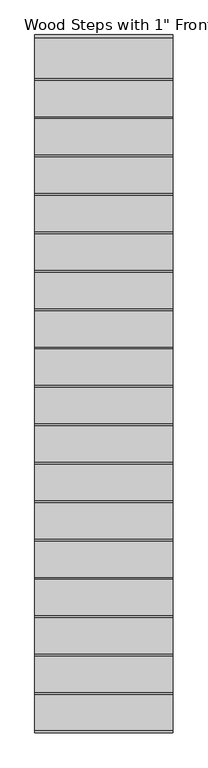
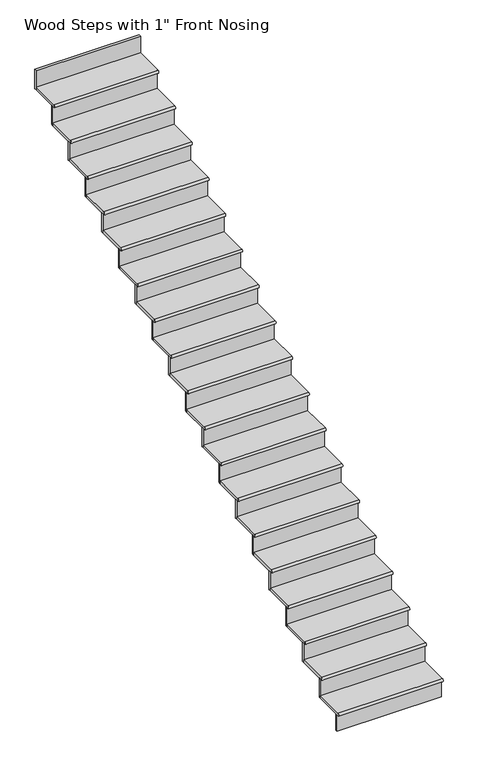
"""IFC4 building model written with IfcOpenShell, lengths in millimetres: stair flight geometry."""

from ifc_helpers import new_model, si_unit, point, frame, frame_2d, origin, place, context, project, spatial, polyline, circle_curve, trimmed, segment, composite_curve, outline, extrude, source, transform, mapped, element, save


def stair_flight_560492a1(model_context):
    return source(origin(), model_context, "Body", "SweptSolid", [
        extrude(outline(composite_curve([segment(polyline([(-5446.3539462, 1415.7157895), (-5179.6539462, 1415.7157895), (-5179.6539462, 1390.3157895), (-5446.3539462, 1390.3157895)]), True, "CONTINUOUS"), segment(trimmed(circle_curve(frame_2d((-5446.3539462, 1403.0157895)), 12.7), [point((-5446.3539462, 1390.3157895))], [point((-5446.3539462, 1415.7157895))], False, "CARTESIAN"), True, "CONTINUOUS")], self_intersect=False)), frame((3548.5370514, 0.0, 0.0), z_axis=(1.0, 0.0, 0.0), x_axis=(0.0, 1.0, 0.0)), (0.0, 0.0, 1.0), 914.4),
        extrude(outline(polyline([(4462.9370514, -5414.6039462), (4462.9370514, -5433.6539462), (3548.5370514, -5433.6539462), (3548.5370514, -5414.6039462), (4462.9370514, -5414.6039462)])), frame((0.0, 0.0, 1238.25), z_axis=(0.0, 0.0, 1.0), x_axis=(1.0, 0.0, 0.0)), (0.0, 0.0, 1.0), 152.0657895),
        extrude(outline(polyline([(4462.9370514, -5160.6039462), (4462.9370514, -5179.6539462), (3548.5370514, -5179.6539462), (3548.5370514, -5160.6039462), (4462.9370514, -5160.6039462)])), frame((0.0, 0.0, 1390.3157895), z_axis=(0.0, 0.0, 1.0), x_axis=(1.0, 0.0, 0.0)), (0.0, 0.0, 1.0), 177.4657895),
        extrude(outline(composite_curve([segment(polyline([(-5192.3539462, 1593.1815789), (-4925.6539462, 1593.1815789), (-4925.6539462, 1567.7815789), (-5192.3539462, 1567.7815789)]), True, "CONTINUOUS"), segment(trimmed(circle_curve(frame_2d((-5192.3539462, 1580.4815789)), 12.7), [point((-5192.3539462, 1567.7815789))], [point((-5192.3539462, 1593.1815789))], False, "CARTESIAN"), True, "CONTINUOUS")], self_intersect=False)), frame((3548.5370514, 0.0, 0.0), z_axis=(1.0, 0.0, 0.0), x_axis=(0.0, 1.0, 0.0)), (0.0, 0.0, 1.0), 914.4),
        extrude(outline(polyline([(4462.9370514, -4906.6039462), (4462.9370514, -4925.6539462), (3548.5370514, -4925.6539462), (3548.5370514, -4906.6039462), (4462.9370514, -4906.6039462)])), frame((0.0, 0.0, 1567.7815789), z_axis=(0.0, 0.0, 1.0), x_axis=(1.0, 0.0, 0.0)), (0.0, 0.0, 1.0), 177.4657895),
        extrude(outline(composite_curve([segment(polyline([(-4938.3539462, 1770.6473684), (-4671.6539462, 1770.6473684), (-4671.6539462, 1745.2473684), (-4938.3539462, 1745.2473684)]), True, "CONTINUOUS"), segment(trimmed(circle_curve(frame_2d((-4938.3539462, 1757.9473684)), 12.7), [point((-4938.3539462, 1745.2473684))], [point((-4938.3539462, 1770.6473684))], False, "CARTESIAN"), True, "CONTINUOUS")], self_intersect=False)), frame((3548.5370514, 0.0, 0.0), z_axis=(1.0, 0.0, 0.0), x_axis=(0.0, 1.0, 0.0)), (0.0, 0.0, 1.0), 914.4),
        extrude(outline(polyline([(4462.9370514, -4652.6039462), (4462.9370514, -4671.6539462), (3548.5370514, -4671.6539462), (3548.5370514, -4652.6039462), (4462.9370514, -4652.6039462)])), frame((0.0, 0.0, 1745.2473684), z_axis=(0.0, 0.0, 1.0), x_axis=(1.0, 0.0, 0.0)), (0.0, 0.0, 1.0), 177.4657895),
        extrude(outline(composite_curve([segment(polyline([(-4684.3539462, 1948.1131579), (-4417.6539462, 1948.1131579), (-4417.6539462, 1922.7131579), (-4684.3539462, 1922.7131579)]), True, "CONTINUOUS"), segment(trimmed(circle_curve(frame_2d((-4684.3539462, 1935.4131579)), 12.7), [point((-4684.3539462, 1922.7131579))], [point((-4684.3539462, 1948.1131579))], False, "CARTESIAN"), True, "CONTINUOUS")], self_intersect=False)), frame((3548.5370514, 0.0, 0.0), z_axis=(1.0, 0.0, 0.0), x_axis=(0.0, 1.0, 0.0)), (0.0, 0.0, 1.0), 914.4),
        extrude(outline(polyline([(4462.9370514, -4398.6039462), (4462.9370514, -4417.6539462), (3548.5370514, -4417.6539462), (3548.5370514, -4398.6039462), (4462.9370514, -4398.6039462)])), frame((0.0, 0.0, 1922.7131579), z_axis=(0.0, 0.0, 1.0), x_axis=(1.0, 0.0, 0.0)), (0.0, 0.0, 1.0), 177.4657895),
        extrude(outline(composite_curve([segment(polyline([(-4430.3539462, 2125.5789474), (-4163.6539462, 2125.5789474), (-4163.6539462, 2100.1789474), (-4430.3539462, 2100.1789474)]), True, "CONTINUOUS"), segment(trimmed(circle_curve(frame_2d((-4430.3539462, 2112.8789474)), 12.7), [point((-4430.3539462, 2100.1789474))], [point((-4430.3539462, 2125.5789474))], False, "CARTESIAN"), True, "CONTINUOUS")], self_intersect=False)), frame((3548.5370514, 0.0, 0.0), z_axis=(1.0, 0.0, 0.0), x_axis=(0.0, 1.0, 0.0)), (0.0, 0.0, 1.0), 914.4),
        extrude(outline(polyline([(4462.9370514, -4144.6039462), (4462.9370514, -4163.6539462), (3548.5370514, -4163.6539462), (3548.5370514, -4144.6039462), (4462.9370514, -4144.6039462)])), frame((0.0, 0.0, 2100.1789474), z_axis=(0.0, 0.0, 1.0), x_axis=(1.0, 0.0, 0.0)), (0.0, 0.0, 1.0), 177.4657895),
        extrude(outline(composite_curve([segment(polyline([(-4176.3539462, 2303.0447368), (-3909.6539462, 2303.0447368), (-3909.6539462, 2277.6447368), (-4176.3539462, 2277.6447368)]), True, "CONTINUOUS"), segment(trimmed(circle_curve(frame_2d((-4176.3539462, 2290.3447368)), 12.7), [point((-4176.3539462, 2277.6447368))], [point((-4176.3539462, 2303.0447368))], False, "CARTESIAN"), True, "CONTINUOUS")], self_intersect=False)), frame((3548.5370514, 0.0, 0.0), z_axis=(1.0, 0.0, 0.0), x_axis=(0.0, 1.0, 0.0)), (0.0, 0.0, 1.0), 914.4),
        extrude(outline(polyline([(4462.9370514, -3890.6039462), (4462.9370514, -3909.6539462), (3548.5370514, -3909.6539462), (3548.5370514, -3890.6039462), (4462.9370514, -3890.6039462)])), frame((0.0, 0.0, 2277.6447368), z_axis=(0.0, 0.0, 1.0), x_axis=(1.0, 0.0, 0.0)), (0.0, 0.0, 1.0), 177.4657895),
        extrude(outline(composite_curve([segment(polyline([(-3922.3539462, 2480.5105263), (-3655.6539462, 2480.5105263), (-3655.6539462, 2455.1105263), (-3922.3539462, 2455.1105263)]), True, "CONTINUOUS"), segment(trimmed(circle_curve(frame_2d((-3922.3539462, 2467.8105263)), 12.7), [point((-3922.3539462, 2455.1105263))], [point((-3922.3539462, 2480.5105263))], False, "CARTESIAN"), True, "CONTINUOUS")], self_intersect=False)), frame((3548.5370514, 0.0, 0.0), z_axis=(1.0, 0.0, 0.0), x_axis=(0.0, 1.0, 0.0)), (0.0, 0.0, 1.0), 914.4),
        extrude(outline(polyline([(4462.9370514, -3636.6039462), (4462.9370514, -3655.6539462), (3548.5370514, -3655.6539462), (3548.5370514, -3636.6039462), (4462.9370514, -3636.6039462)])), frame((0.0, 0.0, 2455.1105263), z_axis=(0.0, 0.0, 1.0), x_axis=(1.0, 0.0, 0.0)), (0.0, 0.0, 1.0), 177.4657895),
        extrude(outline(composite_curve([segment(polyline([(-3668.3539462, 2657.9763158), (-3401.6539462, 2657.9763158), (-3401.6539462, 2632.5763158), (-3668.3539462, 2632.5763158)]), True, "CONTINUOUS"), segment(trimmed(circle_curve(frame_2d((-3668.3539462, 2645.2763158)), 12.7), [point((-3668.3539462, 2632.5763158))], [point((-3668.3539462, 2657.9763158))], False, "CARTESIAN"), True, "CONTINUOUS")], self_intersect=False)), frame((3548.5370514, 0.0, 0.0), z_axis=(1.0, 0.0, 0.0), x_axis=(0.0, 1.0, 0.0)), (0.0, 0.0, 1.0), 914.4),
        extrude(outline(polyline([(4462.9370514, -3382.6039462), (4462.9370514, -3401.6539462), (3548.5370514, -3401.6539462), (3548.5370514, -3382.6039462), (4462.9370514, -3382.6039462)])), frame((0.0, 0.0, 2632.5763158), z_axis=(0.0, 0.0, 1.0), x_axis=(1.0, 0.0, 0.0)), (0.0, 0.0, 1.0), 177.4657895),
        extrude(outline(composite_curve([segment(polyline([(-3414.3539462, 2835.4421053), (-3147.6539462, 2835.4421053), (-3147.6539462, 2810.0421053), (-3414.3539462, 2810.0421053)]), True, "CONTINUOUS"), segment(trimmed(circle_curve(frame_2d((-3414.3539462, 2822.7421053)), 12.7), [point((-3414.3539462, 2810.0421053))], [point((-3414.3539462, 2835.4421053))], False, "CARTESIAN"), True, "CONTINUOUS")], self_intersect=False)), frame((3548.5370514, 0.0, 0.0), z_axis=(1.0, 0.0, 0.0), x_axis=(0.0, 1.0, 0.0)), (0.0, 0.0, 1.0), 914.4),
        extrude(outline(polyline([(4462.9370514, -3128.6039462), (4462.9370514, -3147.6539462), (3548.5370514, -3147.6539462), (3548.5370514, -3128.6039462), (4462.9370514, -3128.6039462)])), frame((0.0, 0.0, 2810.0421053), z_axis=(0.0, 0.0, 1.0), x_axis=(1.0, 0.0, 0.0)), (0.0, 0.0, 1.0), 177.4657895),
        extrude(outline(composite_curve([segment(polyline([(-3160.3539462, 3012.9078947), (-2893.6539462, 3012.9078947), (-2893.6539462, 2987.5078947), (-3160.3539462, 2987.5078947)]), True, "CONTINUOUS"), segment(trimmed(circle_curve(frame_2d((-3160.3539462, 3000.2078947)), 12.7), [point((-3160.3539462, 2987.5078947))], [point((-3160.3539462, 3012.9078947))], False, "CARTESIAN"), True, "CONTINUOUS")], self_intersect=False)), frame((3548.5370514, 0.0, 0.0), z_axis=(1.0, 0.0, 0.0), x_axis=(0.0, 1.0, 0.0)), (0.0, 0.0, 1.0), 914.4),
        extrude(outline(polyline([(4462.9370514, -2874.6039462), (4462.9370514, -2893.6539462), (3548.5370514, -2893.6539462), (3548.5370514, -2874.6039462), (4462.9370514, -2874.6039462)])), frame((0.0, 0.0, 2987.5078947), z_axis=(0.0, 0.0, 1.0), x_axis=(1.0, 0.0, 0.0)), (0.0, 0.0, 1.0), 177.4657895),
        extrude(outline(composite_curve([segment(polyline([(-2906.3539462, 3190.3736842), (-2639.6539462, 3190.3736842), (-2639.6539462, 3164.9736842), (-2906.3539462, 3164.9736842)]), True, "CONTINUOUS"), segment(trimmed(circle_curve(frame_2d((-2906.3539462, 3177.6736842)), 12.7), [point((-2906.3539462, 3164.9736842))], [point((-2906.3539462, 3190.3736842))], False, "CARTESIAN"), True, "CONTINUOUS")], self_intersect=False)), frame((3548.5370514, 0.0, 0.0), z_axis=(1.0, 0.0, 0.0), x_axis=(0.0, 1.0, 0.0)), (0.0, 0.0, 1.0), 914.4),
        extrude(outline(polyline([(4462.9370514, -2620.6039462), (4462.9370514, -2639.6539462), (3548.5370514, -2639.6539462), (3548.5370514, -2620.6039462), (4462.9370514, -2620.6039462)])), frame((0.0, 0.0, 3164.9736842), z_axis=(0.0, 0.0, 1.0), x_axis=(1.0, 0.0, 0.0)), (0.0, 0.0, 1.0), 177.4657895),
        extrude(outline(composite_curve([segment(polyline([(-2652.3539462, 3367.8394737), (-2385.6539462, 3367.8394737), (-2385.6539462, 3342.4394737), (-2652.3539462, 3342.4394737)]), True, "CONTINUOUS"), segment(trimmed(circle_curve(frame_2d((-2652.3539462, 3355.1394737)), 12.7), [point((-2652.3539462, 3342.4394737))], [point((-2652.3539462, 3367.8394737))], False, "CARTESIAN"), True, "CONTINUOUS")], self_intersect=False)), frame((3548.5370514, 0.0, 0.0), z_axis=(1.0, 0.0, 0.0), x_axis=(0.0, 1.0, 0.0)), (0.0, 0.0, 1.0), 914.4),
        extrude(outline(polyline([(4462.9370514, -2366.6039462), (4462.9370514, -2385.6539462), (3548.5370514, -2385.6539462), (3548.5370514, -2366.6039462), (4462.9370514, -2366.6039462)])), frame((0.0, 0.0, 3342.4394737), z_axis=(0.0, 0.0, 1.0), x_axis=(1.0, 0.0, 0.0)), (0.0, 0.0, 1.0), 177.4657895),
        extrude(outline(composite_curve([segment(polyline([(-2398.3539462, 3545.3052632), (-2131.6539462, 3545.3052632), (-2131.6539462, 3519.9052632), (-2398.3539462, 3519.9052632)]), True, "CONTINUOUS"), segment(trimmed(circle_curve(frame_2d((-2398.3539462, 3532.6052632)), 12.7), [point((-2398.3539462, 3519.9052632))], [point((-2398.3539462, 3545.3052632))], False, "CARTESIAN"), True, "CONTINUOUS")], self_intersect=False)), frame((3548.5370514, 0.0, 0.0), z_axis=(1.0, 0.0, 0.0), x_axis=(0.0, 1.0, 0.0)), (0.0, 0.0, 1.0), 914.4),
        extrude(outline(polyline([(4462.9370514, -2112.6039462), (4462.9370514, -2131.6539462), (3548.5370514, -2131.6539462), (3548.5370514, -2112.6039462), (4462.9370514, -2112.6039462)])), frame((0.0, 0.0, 3519.9052632), z_axis=(0.0, 0.0, 1.0), x_axis=(1.0, 0.0, 0.0)), (0.0, 0.0, 1.0), 177.4657895),
        extrude(outline(composite_curve([segment(polyline([(-2144.3539462, 3722.7710526), (-1877.6539462, 3722.7710526), (-1877.6539462, 3697.3710526), (-2144.3539462, 3697.3710526)]), True, "CONTINUOUS"), segment(trimmed(circle_curve(frame_2d((-2144.3539462, 3710.0710526)), 12.7), [point((-2144.3539462, 3697.3710526))], [point((-2144.3539462, 3722.7710526))], False, "CARTESIAN"), True, "CONTINUOUS")], self_intersect=False)), frame((3548.5370514, 0.0, 0.0), z_axis=(1.0, 0.0, 0.0), x_axis=(0.0, 1.0, 0.0)), (0.0, 0.0, 1.0), 914.4),
        extrude(outline(polyline([(4462.9370514, -1858.6039462), (4462.9370514, -1877.6539462), (3548.5370514, -1877.6539462), (3548.5370514, -1858.6039462), (4462.9370514, -1858.6039462)])), frame((0.0, 0.0, 3697.3710526), z_axis=(0.0, 0.0, 1.0), x_axis=(1.0, 0.0, 0.0)), (0.0, 0.0, 1.0), 177.4657895),
        extrude(outline(composite_curve([segment(polyline([(-1890.3539462, 3900.2368421), (-1623.6539462, 3900.2368421), (-1623.6539462, 3874.8368421), (-1890.3539462, 3874.8368421)]), True, "CONTINUOUS"), segment(trimmed(circle_curve(frame_2d((-1890.3539462, 3887.5368421)), 12.7), [point((-1890.3539462, 3874.8368421))], [point((-1890.3539462, 3900.2368421))], False, "CARTESIAN"), True, "CONTINUOUS")], self_intersect=False)), frame((3548.5370514, 0.0, 0.0), z_axis=(1.0, 0.0, 0.0), x_axis=(0.0, 1.0, 0.0)), (0.0, 0.0, 1.0), 914.4),
        extrude(outline(polyline([(4462.9370514, -1604.6039462), (4462.9370514, -1623.6539462), (3548.5370514, -1623.6539462), (3548.5370514, -1604.6039462), (4462.9370514, -1604.6039462)])), frame((0.0, 0.0, 3874.8368421), z_axis=(0.0, 0.0, 1.0), x_axis=(1.0, 0.0, 0.0)), (0.0, 0.0, 1.0), 177.4657895),
        extrude(outline(composite_curve([segment(polyline([(-1636.3539462, 4077.7026316), (-1369.6539462, 4077.7026316), (-1369.6539462, 4052.3026316), (-1636.3539462, 4052.3026316)]), True, "CONTINUOUS"), segment(trimmed(circle_curve(frame_2d((-1636.3539462, 4065.0026316)), 12.7), [point((-1636.3539462, 4052.3026316))], [point((-1636.3539462, 4077.7026316))], False, "CARTESIAN"), True, "CONTINUOUS")], self_intersect=False)), frame((3548.5370514, 0.0, 0.0), z_axis=(1.0, 0.0, 0.0), x_axis=(0.0, 1.0, 0.0)), (0.0, 0.0, 1.0), 914.4),
        extrude(outline(polyline([(4462.9370514, -1350.6039462), (4462.9370514, -1369.6539462), (3548.5370514, -1369.6539462), (3548.5370514, -1350.6039462), (4462.9370514, -1350.6039462)])), frame((0.0, 0.0, 4052.3026316), z_axis=(0.0, 0.0, 1.0), x_axis=(1.0, 0.0, 0.0)), (0.0, 0.0, 1.0), 177.4657895),
        extrude(outline(composite_curve([segment(polyline([(-1382.3539462, 4255.1684211), (-1115.6539462, 4255.1684211), (-1115.6539462, 4229.7684211), (-1382.3539462, 4229.7684211)]), True, "CONTINUOUS"), segment(trimmed(circle_curve(frame_2d((-1382.3539462, 4242.4684211)), 12.7), [point((-1382.3539462, 4229.7684211))], [point((-1382.3539462, 4255.1684211))], False, "CARTESIAN"), True, "CONTINUOUS")], self_intersect=False)), frame((3548.5370514, 0.0, 0.0), z_axis=(1.0, 0.0, 0.0), x_axis=(0.0, 1.0, 0.0)), (0.0, 0.0, 1.0), 914.4),
        extrude(outline(polyline([(4462.9370514, -1096.6039462), (4462.9370514, -1115.6539462), (3548.5370514, -1115.6539462), (3548.5370514, -1096.6039462), (4462.9370514, -1096.6039462)])), frame((0.0, 0.0, 4229.7684211), z_axis=(0.0, 0.0, 1.0), x_axis=(1.0, 0.0, 0.0)), (0.0, 0.0, 1.0), 177.4657895),
        extrude(outline(polyline([(4462.9370514, -842.6039462), (4462.9370514, -861.6539462), (3548.5370514, -861.6539462), (3548.5370514, -842.6039462), (4462.9370514, -842.6039462)])), frame((0.0, 0.0, 4407.2342105), z_axis=(0.0, 0.0, 1.0), x_axis=(1.0, 0.0, 0.0)), (0.0, 0.0, 1.0), 177.4657895),
        extrude(outline(composite_curve([segment(polyline([(-1128.3539462, 4432.6342105), (-861.6539462, 4432.6342105), (-861.6539462, 4407.2342105), (-1128.3539462, 4407.2342105)]), True, "CONTINUOUS"), segment(trimmed(circle_curve(frame_2d((-1128.3539462, 4419.9342105)), 12.7), [point((-1128.3539462, 4407.2342105))], [point((-1128.3539462, 4432.6342105))], False, "CARTESIAN"), True, "CONTINUOUS")], self_intersect=False)), frame((3548.5370514, 0.0, 0.0), z_axis=(1.0, 0.0, 0.0), x_axis=(0.0, 1.0, 0.0)), (0.0, 0.0, 1.0), 914.4),
    ])


if __name__ == "__main__":
    model = new_model("IFC4")
    model_context = context("Model", 3, world=origin())
    ifc_project = project(units=[si_unit("LENGTHUNIT", "METRE", prefix="MILLI")], contexts=[model_context])
    site = spatial("IfcSite", under=ifc_project)
    building = spatial("IfcBuilding", under=site)
    placement = place(None, origin())
    stair_flight_shape = stair_flight_560492a1(model_context)
    element("IfcStairFlight", 1, ObjectType="Wood Steps with 1\" Front Nosing", at=placement, inside=building, context=model_context, shape_type="MappedRepresentation", body=[
        mapped(stair_flight_shape, transform((0.0, 0.0, 0.0), x_axis=(1.0, 0.0, 0.0), y_axis=(0.0, 1.0, 0.0), z_axis=(0.0, 0.0, 1.0))),
    ])
    save(model, "model.ifc")
